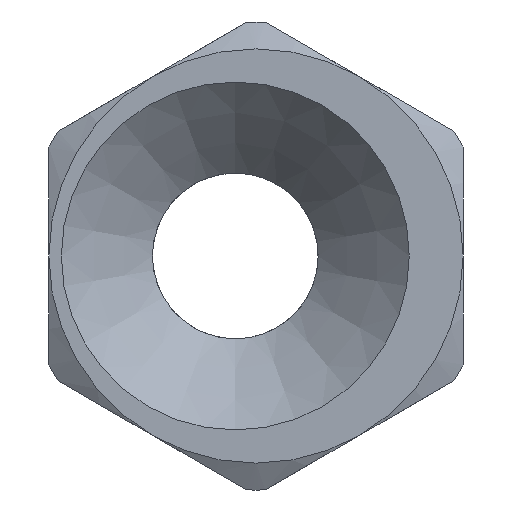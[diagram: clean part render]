
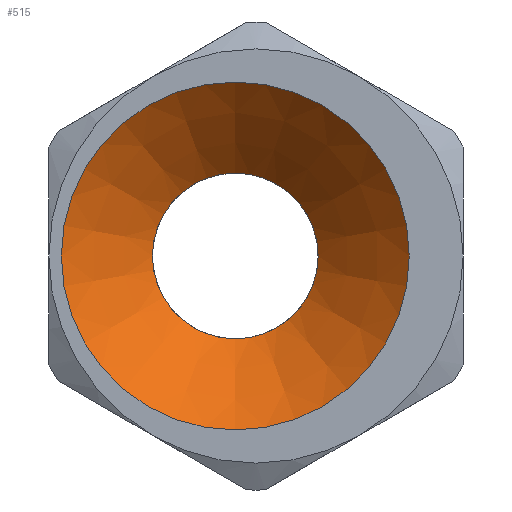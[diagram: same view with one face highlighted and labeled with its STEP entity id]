
A CAD part, left-side view. The second image highlights one B-rep face of the part: STEP entity #515.
In plain terms, the highlighted conical face has half-angle 45 degrees and reference radius 4.2 mm.
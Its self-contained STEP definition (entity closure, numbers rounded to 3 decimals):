
#56=CONICAL_SURFACE('',#590,4.2,0.785);
#72=CIRCLE('',#538,2.);
#97=CIRCLE('',#588,4.2);
#236=ORIENTED_EDGE('',*,*,#256,.T.);
#237=ORIENTED_EDGE('',*,*,#319,.F.);
#256=EDGE_CURVE('',#328,#328,#72,.T.);
#319=EDGE_CURVE('',#365,#365,#97,.T.);
#328=VERTEX_POINT('',#762);
#365=VERTEX_POINT('',#959);
#438=EDGE_LOOP('',(#236));
#439=EDGE_LOOP('',(#237));
#474=FACE_BOUND('',#438,.T.);
#475=FACE_BOUND('',#439,.T.);
#515=ADVANCED_FACE('',(#474,#475),#56,.F.);
#538=AXIS2_PLACEMENT_3D('',#761,#615,#616);
#588=AXIS2_PLACEMENT_3D('',#958,#729,#730);
#590=AXIS2_PLACEMENT_3D('',#961,#733,#734);
#615=DIRECTION('',(1.,0.,0.));
#616=DIRECTION('',(0.,0.,-1.));
#729=DIRECTION('',(1.,0.,0.));
#730=DIRECTION('',(0.,0.,-1.));
#733=DIRECTION('',(-1.,0.,0.));
#734=DIRECTION('',(0.,0.,1.));
#761=CARTESIAN_POINT('',(2.2,0.5,0.));
#762=CARTESIAN_POINT('',(2.2,0.5,-2.));
#958=CARTESIAN_POINT('',(0.,0.5,0.));
#959=CARTESIAN_POINT('',(0.,0.5,-4.2));
#961=CARTESIAN_POINT('',(0.,0.5,0.));
